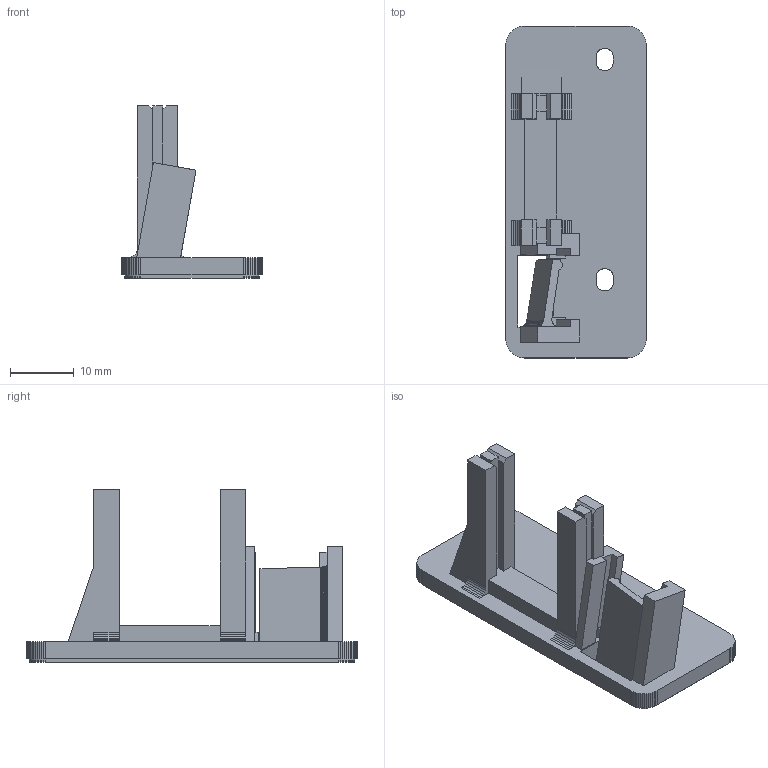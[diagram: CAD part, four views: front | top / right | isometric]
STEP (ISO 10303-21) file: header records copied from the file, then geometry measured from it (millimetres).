
FILE_DESCRIPTION(('Open CASCADE Model'),'2;1');
FILE_NAME('Open CASCADE Shape Model','2026-11-27T19:31:34',('Author'),( 'Open CASCADE'),'Open CASCADE STEP processor 8.0','build123d', 'Unknown');
FILE_SCHEMA(('AUTOMOTIVE_DESIGN { 1 0 10303 214 1 1 1 1 }'));
Length unit declared in the file: millimetre
Products named in the file (2): =>[0:1:1:2]; SOLID
Assembly tree (1 placements, depth 2):
  =>[0:1:1:2]
    SOLID
Bounding box: 22 x 52 x 27 mm (x, y, z)
Volume: 5458.4 mm3; surface area: 4737.5 mm2
Topology: 1 solids, 1 shells, 409 faces, 1208 edges, 802 vertices
Faces by surface type: plane 409
Entity records: 28901 total; most frequent: CARTESIAN_POINT 5022, DIRECTION 4261, LINE 3439, VECTOR 3439, ORIENTED_EDGE 2416, PCURVE 2416, DEFINITIONAL_REPRESENTATION 2416, EDGE_CURVE 1208
